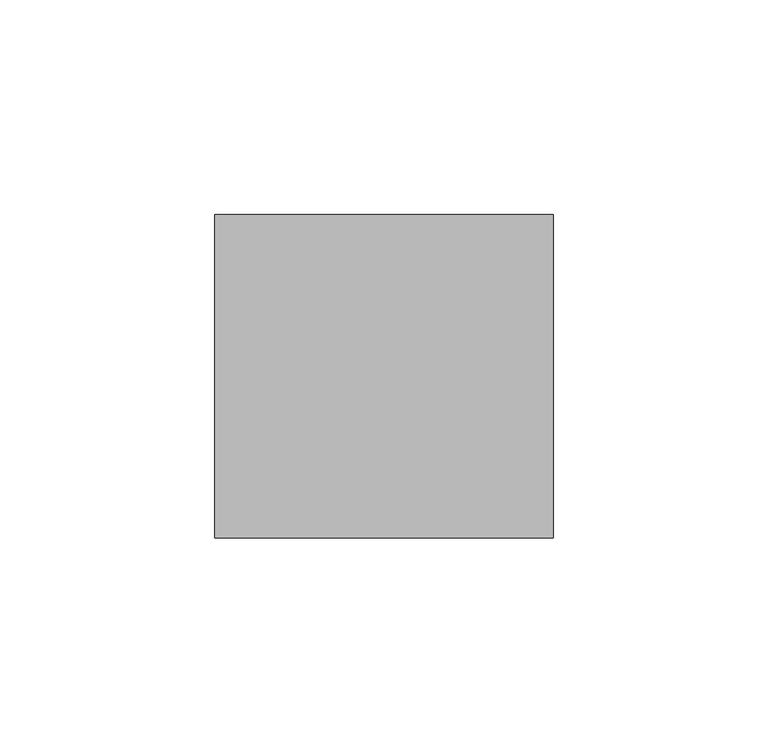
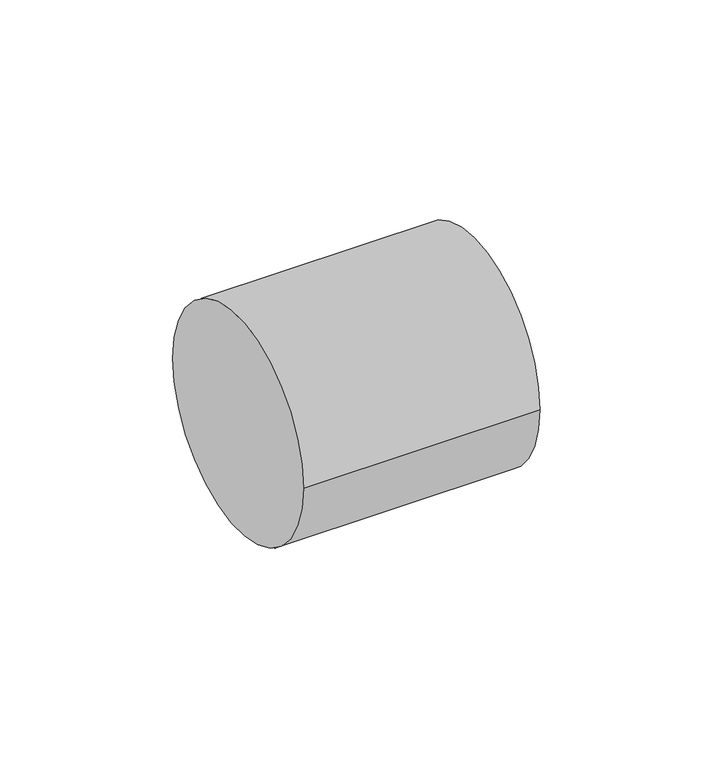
"""IFC4 building model written with IfcOpenShell, lengths in millimetres: pipe fitting geometry, 01051005 : Uniao Simples."""

from ifc_helpers import new_model, si_unit, point, frame, origin, origin_2d, place, context, project, spatial, circle_curve, trimmed, segment, composite_curve, outline, extrude, source, transform, mapped, element, save


def pipe_fitting_fa8b3dea(model_context):
    return source(origin(), model_context, "Body", "SweptSolid", [
        extrude(outline(composite_curve([segment(trimmed(circle_curve(origin_2d(), 37.75), [point((-37.75, 0.0))], [point((37.75, 0.0))], False, "CARTESIAN"), True, "CONTINUOUS"), segment(trimmed(circle_curve(origin_2d(), 37.75), [point((37.75, 0.0))], [point((-37.75, 0.0))], False, "CARTESIAN"), True, "CONTINUOUS")], self_intersect=False)), frame((-39.5, 0.0, 0.0), z_axis=(1.0, 0.0, 0.0), x_axis=(0.0, 1.0, 0.0)), (0.0, 0.0, 1.0), 79.0),
    ])


if __name__ == "__main__":
    model = new_model("IFC4")
    model_context = context("Model", 3, world=origin())
    ifc_project = project(units=[si_unit("LENGTHUNIT", "METRE", prefix="MILLI")], contexts=[model_context])
    site = spatial("IfcSite", under=ifc_project)
    building = spatial("IfcBuilding", under=site)
    placement = place(None, origin())
    pipe_fitting_shape = pipe_fitting_fa8b3dea(model_context)
    element("IfcPipeFitting", 1, ObjectType="01051005 : Uniao Simples", at=placement, inside=building, context=model_context, shape_type="MappedRepresentation", body=[
        mapped(pipe_fitting_shape, transform((0.0, 0.0, 0.0), x_axis=(1.0, 0.0, 0.0), y_axis=(0.0, 1.0, 0.0), z_axis=(0.0, 0.0, 1.0))),
    ])
    save(model, "model.ifc")
